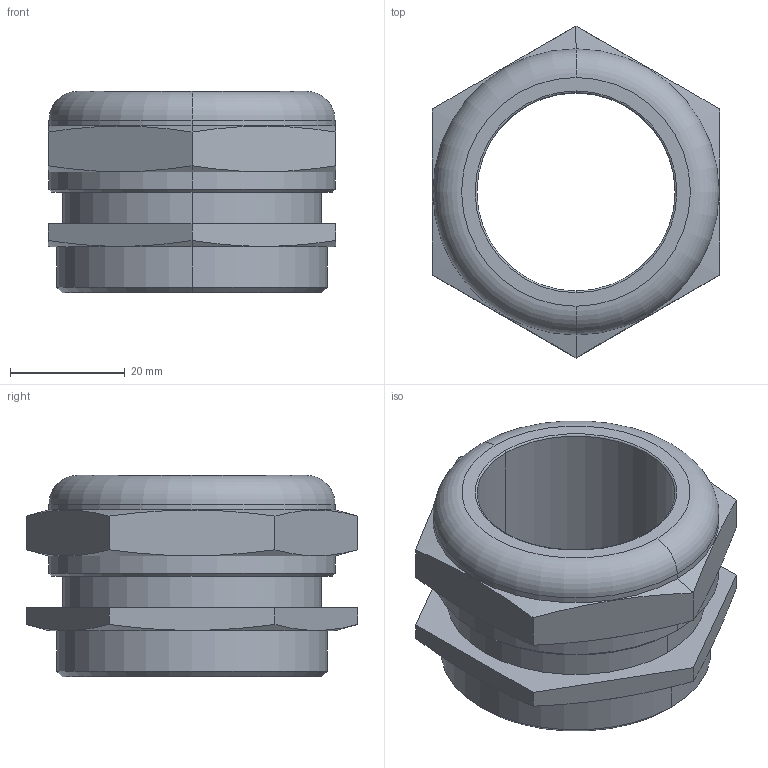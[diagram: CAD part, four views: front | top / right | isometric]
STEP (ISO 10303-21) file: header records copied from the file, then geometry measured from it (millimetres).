
FILE_DESCRIPTION (( 'STEP AP203' ), '1' );
FILE_NAME ('101036.STEP', '2006-10-04T11:26:44', ( ' ' ), ( '' ), 'SwSTEP 2.0', 'SolidWorks 2005278', '' );
FILE_SCHEMA (( 'CONFIG_CONTROL_DESIGN' ));
Length unit declared in the file: millimetre
Products named in the file (1): 101036
Bounding box: 50 x 57.73 x 35 mm (x, y, z)
Volume: 33304.3 mm3; surface area: 12268.8 mm2
Topology: 1 solids, 1 shells, 78 faces, 192 edges, 122 vertices
Faces by surface type: plane 54, cone 10, cylinder 10, torus 4
Entity records: 2461 total; most frequent: CARTESIAN_POINT 543, ORIENTED_EDGE 384, DIRECTION 366, EDGE_CURVE 192, LINE 140, VECTOR 140, VERTEX_POINT 122, AXIS2_PLACEMENT_3D 113
